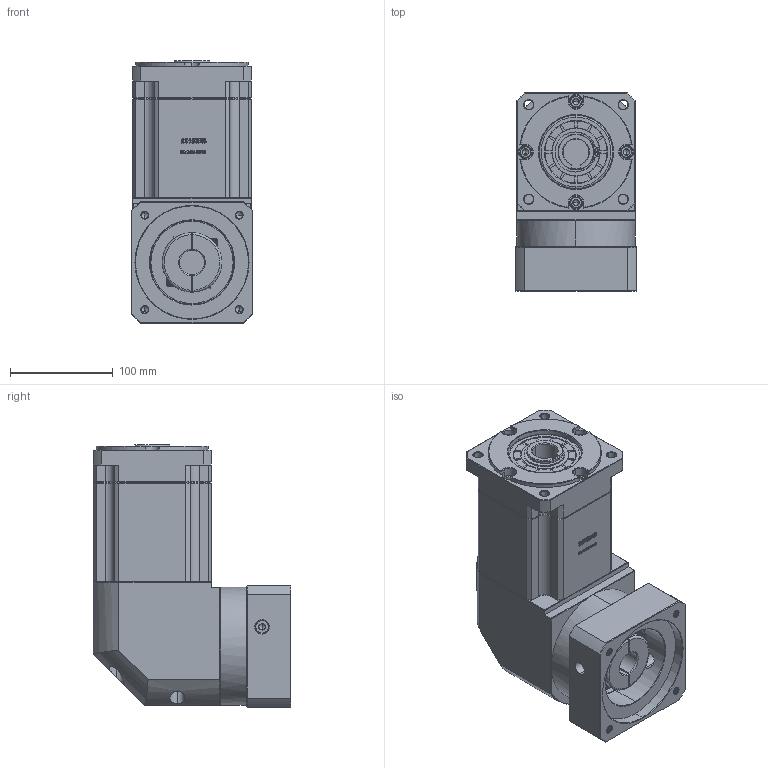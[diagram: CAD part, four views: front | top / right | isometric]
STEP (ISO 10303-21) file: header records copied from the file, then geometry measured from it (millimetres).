
FILE_DESCRIPTION (( 'STEP AP214' ), '1' );
FILE_NAME ('ZBR115A-K25-L3-24-110-130-M8.step', '2023-03-03T05:09:11', ( '' ), ( 'Microsoft' ), 'SwSTEP 2.0', 'SolidWorks 2016', '' );
FILE_SCHEMA (( 'AUTOMOTIVE_DESIGN' ));
Length unit declared in the file: millimetre
Products named in the file (1): ZBR115A-K25-L3-24-110-130-M8
Bounding box: 118 x 192.4 x 255 mm (x, y, z)
Volume: 3548414.9 mm3; surface area: 269276.4 mm2
Topology: 6 solids, 6 shells, 2926 faces, 7778 edges, 4998 vertices
Faces by surface type: plane 1552, bspline 597, cylinder 406, cone 363, torus 8
Entity records: 156433 total; most frequent: CARTESIAN_POINT 56127, ORIENTED_EDGE 15500, DIRECTION 11771, EDGE_CURVE 7750, VECTOR 5255, LINE 5255, VERTEX_POINT 4998, AXIS2_PLACEMENT_3D 3258
